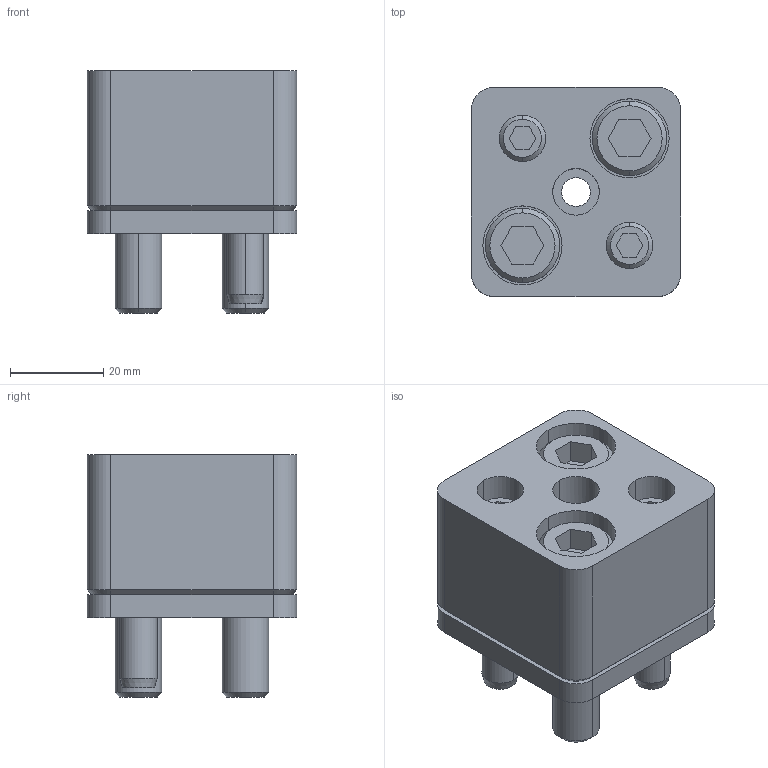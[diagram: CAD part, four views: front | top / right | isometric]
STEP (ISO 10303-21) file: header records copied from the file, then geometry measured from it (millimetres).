
FILE_DESCRIPTION(/* description */ (''),/* implementation_level */ '2;1');
FILE_NAME(/* name */ '3d_hsr-fp10_04204_r00.stp',/* time_stamp */ '2011-01-10T14:14:34+09:00',/* author */ ('MISUMI'),/* organization */ (''),/* preprocessor_version */ 'ST-DEVELOPER v11',/* originating_system */ 'UGS - NX 5.0',/* authorisation */ '');
FILE_SCHEMA (('CONFIG_CONTROL_DESIGN'));
Length unit declared in the file: millimetre
Products named in the file (1): 3d_hsr-fp10_04204_r00
Bounding box: 45 x 45 x 52 mm (x, y, z)
Volume: 66126.8 mm3; surface area: 25858.1 mm2
Topology: 8 solids, 8 shells, 167 faces, 380 edges, 243 vertices
Faces by surface type: plane 72, cylinder 65, cone 30
Entity records: 4856 total; most frequent: DIRECTION 866, CARTESIAN_POINT 850, ORIENTED_EDGE 760, EDGE_CURVE 380, AXIS2_PLACEMENT_3D 329, VERTEX_POINT 243, LINE 208, VECTOR 208
